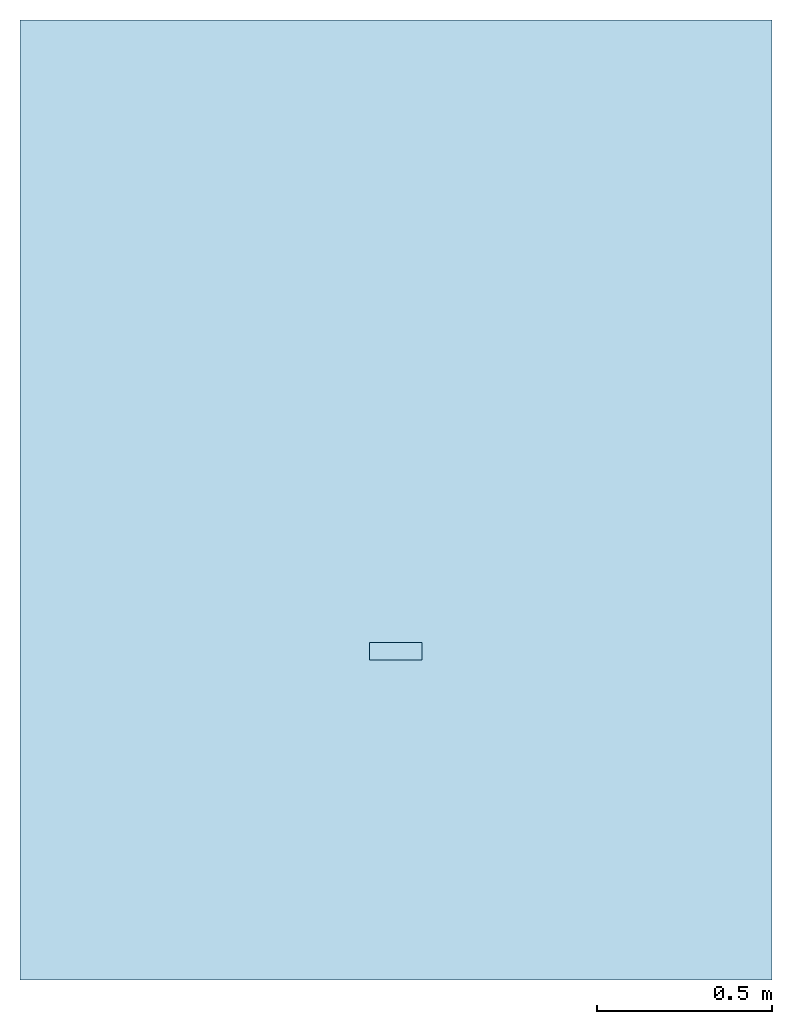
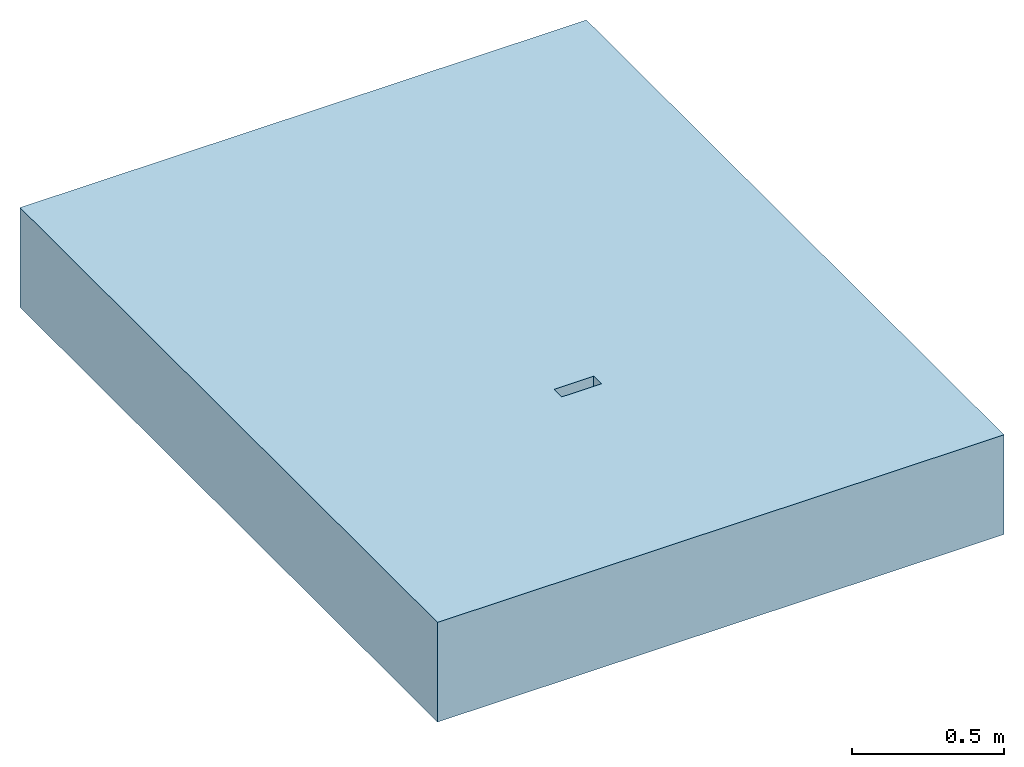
# One storey: 1 slab, 3 openings.
"""IFC2X3 building model written with IfcOpenShell, lengths in millimetres."""

from ifc_helpers import new_model, entity, si_unit, converted_unit, direction, frame, frame_2d, origin, place, context, subcontext, project, spatial, polyline, rectangle, outline, extrude, faceted_brep, material, layer, layer_set, layer_usage, element, save


model = new_model("IFC2X3")

# Units and contexts
model_context = context("Model", 3, precision=1e-06, world=origin(), true_north=direction((2.0, 6.12303176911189e-17, 1.0)))
context_of_model = context(None, 3, precision=1e-06, world=origin(), true_north=direction((2.0, 6.12303176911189e-17, 1.0)))
body_context = subcontext(model_context, "Body", "Model", "MODEL_VIEW")
ifc_project = project(units=[si_unit("LENGTHUNIT", "METRE", prefix="MILLI"), si_unit("AREAUNIT", "SQUARE_METRE", prefix="MILLI"), si_unit("VOLUMEUNIT", "CUBIC_METRE", prefix="MILLI"), converted_unit("PLANEANGLEUNIT", "DEGREE", entity("IfcRatioMeasure", 0.0174532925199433), si_unit("PLANEANGLEUNIT", "RADIAN"), dimensions=[0, 0, 0, 0, 0, 0, 0]), si_unit("TIMEUNIT", "SECOND")], contexts=[model_context, context_of_model])

# Site, building, storey
site_placement = place(None, origin())
site = spatial("IfcSite", under=ifc_project, at=site_placement, Name="Default", CompositionType="ELEMENT")
building_placement = place(site_placement, origin())
building = spatial("IfcBuilding", under=site, at=building_placement, CompositionType="ELEMENT")
storey_placement = place(building_placement, origin())
storey = spatial("IfcBuildingStorey", under=building, at=storey_placement, Name="Level 1", CompositionType="ELEMENT", Elevation=0.0)

# Slab, openings
ifc_material = material(Name="Earth")
ifc_layer = layer(ifc_material, 400.0)
ifc_layer_set = layer_set([ifc_layer], Name="Floor:Generic Floor - 400mm")
ifc_layer_usage = layer_usage(ifc_layer_set, "AXIS3", "POSITIVE", 0.0)
slab_placement = place(storey_placement, frame((-6757.99544306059, -11162.1166238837, -400.0)))
slab = element("IfcSlab", 1, at=slab_placement, inside=storey, material=ifc_layer_usage, Name="Floor:Generic Floor - 400mm", ObjectType="Floor:Generic Floor - 400mm", PredefinedType="FLOOR", context=body_context, shape_type="SweptSolid", body=[
    extrude(rectangle(XDim=2745.0, YDim=2150.0, at=frame_2d((0.0, 0.0), x_axis=(0.0, 1.0))), frame((1075.0, 1372.5, 400.0), z_axis=(0.0, 0.0, -1.0), x_axis=(-1.0, 0.0, 0.0)), (0.0, 0.0, 1.0), 400.0),
])
opening_1_placement = place(slab_placement, frame((994.900000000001, 915.0, 45.0)))
element("IfcOpeningElement", 2, at=opening_1_placement, cuts=slab, ObjectType="Opening", context=body_context, shape_type="SweptSolid", body=[
    extrude(outline(polyline([(68.0111245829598, -6.22272762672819), (115.645146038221, -6.22272762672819), (-37.6614234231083, 118.079896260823), (-135.280726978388, -2.31724479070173), (-10.7141202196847, -103.317196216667), (68.0111245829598, -6.22272762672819)])), frame((1000.0, 1008.0, -1496.3793229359), z_axis=(1.0, 0.0, 0.0), x_axis=(0.0, -0.629801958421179, 0.776755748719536)), (0.0, 0.0, 1.0), 1.99999999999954),
])
opening_2_placement = place(slab_placement, frame((994.900000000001, 915.0, 45.0)))
element("IfcOpeningElement", 3, at=opening_2_placement, cuts=slab, ObjectType="Opening", context=body_context, shape_type="SweptSolid", body=[
    extrude(outline(polyline([(-243.499999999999, -75.0), (243.499999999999, -75.0), (250.0, 75.0), (-250.0, 75.0), (-243.499999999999, -75.0)])), frame((1075.0, 1165.0, 4965.0), z_axis=(0.0, 0.0, 1.0), x_axis=(0.0, -1.0, 0.0)), (0.0, 0.0, 1.0), 4.99999999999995),
])
opening_3_placement = place(slab_placement, frame((994.900000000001, 915.0, 45.0)))
element("IfcOpeningElement", 4, at=opening_3_placement, cuts=slab, ObjectType="Opening", context=body_context, shape_type="Brep", body=[
    faceted_brep([(155.099999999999, 50.0, 0.0), (155.099999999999, 50.0, 21.4000000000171), (5.10000000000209, 50.0, 21.4000000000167), (5.10000000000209, 50.0, 0.0), (155.099999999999, 50.0, 218.480477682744), (155.099999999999, 50.0, 355.0), (5.10000000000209, 50.0, 355.0), (5.10000000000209, 50.0, 218.480477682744), (160.2, 50.0, 218.480477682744), (160.200000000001, 50.0, 21.4000000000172), (0.0, 50.0, 218.480477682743), (0.0, 50.0, 21.4000000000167), (155.099999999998, 0.0, 355.0), (5.10000000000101, 0.0, 355.0), (5.10000000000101, 0.0, 0.0), (155.099999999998, 0.0, 0.0), (160.2, 80.0, 181.375000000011), (160.200000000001, 197.0, 21.4000000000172), (160.2, 197.0, 181.375000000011), (0.0, 80.0, 181.37500000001), (0.0, 197.0, 21.4000000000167), (0.0, 197.0, 181.37500000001)], [[[0, 1, 2]], [[2, 3, 0]], [[4, 5, 6]], [[6, 7, 4]], [[1, 8, 9]], [[8, 1, 4]], [[10, 7, 2]], [[2, 11, 10]], [[6, 5, 12]], [[12, 13, 6]], [[0, 3, 14]], [[14, 15, 0]], [[7, 6, 13]], [[14, 7, 13]], [[14, 3, 2]], [[7, 14, 2]], [[14, 13, 12]], [[12, 15, 14]], [[4, 12, 5]], [[15, 12, 4]], [[0, 15, 1]], [[4, 1, 15]], [[16, 17, 9]], [[9, 8, 16]], [[17, 16, 18]], [[11, 19, 10]], [[19, 11, 20]], [[21, 19, 20]], [[4, 16, 8]], [[19, 16, 4]], [[10, 19, 7]], [[4, 7, 19]], [[1, 9, 17]], [[20, 1, 17]], [[20, 11, 2]], [[1, 20, 2]], [[21, 17, 18]], [[17, 21, 20]], [[21, 18, 16]], [[16, 19, 21]]]),
])

save(model, "model.ifc")
